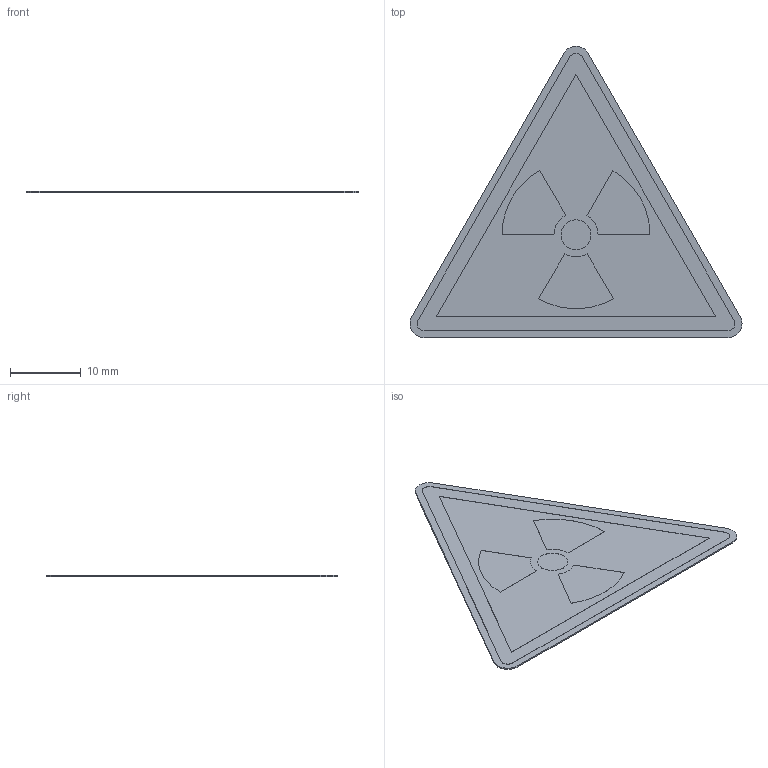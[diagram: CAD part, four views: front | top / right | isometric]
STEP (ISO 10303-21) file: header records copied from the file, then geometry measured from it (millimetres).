
FILE_DESCRIPTION (( 'STEP AP214' ), '1' );
FILE_NAME ('W003_Warnung vor radioaktiven Stoffen oder ionisierender Strahlung.STEP', '2022-02-22T08:08:35', ( '' ), ( '' ), 'SwSTEP 2.0', 'SolidWorks 2021', '' );
FILE_SCHEMA (( 'AUTOMOTIVE_DESIGN' ));
Length unit declared in the file: millimetre
Products named in the file (1): W003_Warnung vor radioaktiven Stoffen oder ionisierender Strahlung
Bounding box: 47.07 x 41.3 x 0.22 mm (x, y, z)
Volume: 221.7 mm3; surface area: 2183.1 mm2
Topology: 1 solids, 1 shells, 39 faces, 93 edges, 62 vertices
Faces by surface type: plane 23, cylinder 16
Entity records: 1492 total; most frequent: DIRECTION 205, CARTESIAN_POINT 195, ORIENTED_EDGE 186, EDGE_CURVE 93, AXIS2_PLACEMENT_3D 72, VERTEX_POINT 62, VECTOR 61, LINE 61
